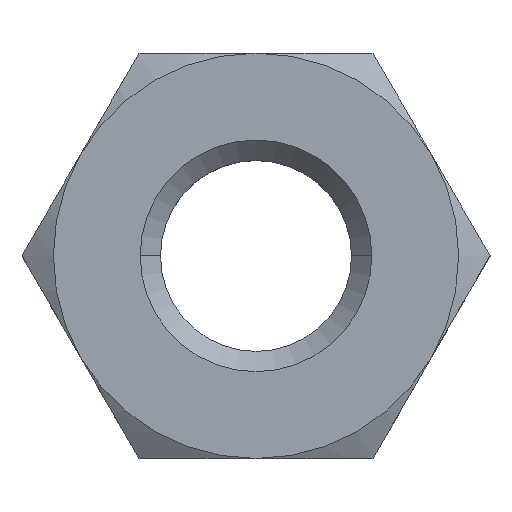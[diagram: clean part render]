
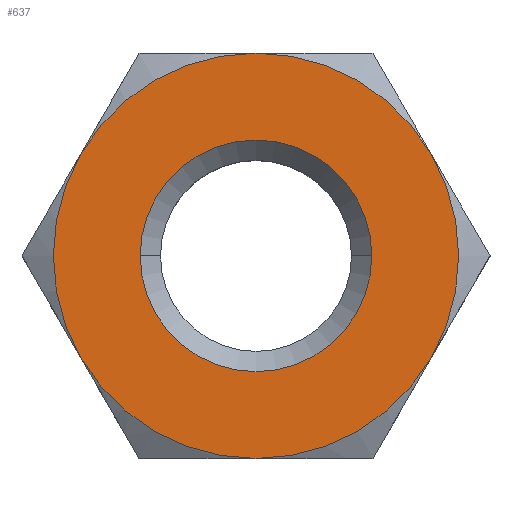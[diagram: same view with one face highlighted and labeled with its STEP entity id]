
A CAD part, top view. The second image highlights one B-rep face of the part: STEP entity #637.
In plain terms, the highlighted planar face has unit normal (0, 0, 1).
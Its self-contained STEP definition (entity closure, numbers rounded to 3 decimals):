
#209=CARTESIAN_POINT('',(0.,0.,3.2));
#210=DIRECTION('',(0.,0.,-1.));
#211=DIRECTION('',(0.,-1.,0.));
#212=AXIS2_PLACEMENT_3D('',#209,#210,#211);
#214=CARTESIAN_POINT('',(0.,0.,3.2));
#215=DIRECTION('',(0.,0.,-1.));
#216=DIRECTION('',(-0.866,-0.5,0.));
#217=AXIS2_PLACEMENT_3D('',#214,#215,#216);
#219=CARTESIAN_POINT('',(0.,0.,3.2));
#220=DIRECTION('',(0.,0.,-1.));
#221=DIRECTION('',(-0.866,0.5,0.));
#222=AXIS2_PLACEMENT_3D('',#219,#220,#221);
#224=CARTESIAN_POINT('',(0.,0.,3.2));
#225=DIRECTION('',(0.,0.,-1.));
#226=DIRECTION('',(0.,1.,0.));
#227=AXIS2_PLACEMENT_3D('',#224,#225,#226);
#229=CARTESIAN_POINT('',(0.,0.,3.2));
#230=DIRECTION('',(0.,0.,-1.));
#231=DIRECTION('',(0.866,0.5,0.));
#232=AXIS2_PLACEMENT_3D('',#229,#230,#231);
#234=CARTESIAN_POINT('',(0.,0.,3.2));
#235=DIRECTION('',(0.,0.,-1.));
#236=DIRECTION('',(0.866,-0.5,0.));
#237=AXIS2_PLACEMENT_3D('',#234,#235,#236);
#239=CARTESIAN_POINT('',(0.,0.,3.2));
#240=DIRECTION('',(0.,0.,1.));
#241=DIRECTION('',(1.,0.,0.));
#242=AXIS2_PLACEMENT_3D('',#239,#240,#241);
#244=CARTESIAN_POINT('',(0.,0.,3.2));
#245=DIRECTION('',(0.,0.,1.));
#246=DIRECTION('',(-1.,0.,0.));
#247=AXIS2_PLACEMENT_3D('',#244,#245,#246);
#313=CARTESIAN_POINT('',(0.,-3.5,3.2));
#314=CARTESIAN_POINT('',(-3.031,-1.75,3.2));
#315=VERTEX_POINT('',#313);
#316=VERTEX_POINT('',#314);
#317=CARTESIAN_POINT('',(-3.031,1.75,3.2));
#318=VERTEX_POINT('',#317);
#319=CARTESIAN_POINT('',(0.,3.5,3.2));
#320=VERTEX_POINT('',#319);
#321=CARTESIAN_POINT('',(3.031,1.75,3.2));
#322=VERTEX_POINT('',#321);
#323=CARTESIAN_POINT('',(3.031,-1.75,3.2));
#324=VERTEX_POINT('',#323);
#353=CARTESIAN_POINT('',(2.,0.,3.2));
#354=CARTESIAN_POINT('',(-2.,0.,3.2));
#355=VERTEX_POINT('',#353);
#356=VERTEX_POINT('',#354);
#615=CARTESIAN_POINT('',(0.,0.,3.2));
#616=DIRECTION('',(0.,0.,1.));
#617=DIRECTION('',(1.,0.,0.));
#618=AXIS2_PLACEMENT_3D('',#615,#616,#617);
#619=PLANE('',#618);
#620=ORIENTED_EDGE('',*,*,#584,.T.);
#621=ORIENTED_EDGE('',*,*,#596,.T.);
#622=ORIENTED_EDGE('',*,*,#608,.T.);
#624=ORIENTED_EDGE('',*,*,#623,.T.);
#626=ORIENTED_EDGE('',*,*,#625,.T.);
#628=ORIENTED_EDGE('',*,*,#627,.T.);
#629=EDGE_LOOP('',(#620,#621,#622,#624,#626,#628));
#630=FACE_OUTER_BOUND('',#629,.F.);
#632=ORIENTED_EDGE('',*,*,#631,.T.);
#634=ORIENTED_EDGE('',*,*,#633,.T.);
#635=EDGE_LOOP('',(#632,#634));
#636=FACE_BOUND('',#635,.F.);
#637=ADVANCED_FACE('',(#630,#636),#619,.T.);
#213=CIRCLE('',#212,3.5);
#218=CIRCLE('',#217,3.5);
#223=CIRCLE('',#222,3.5);
#228=CIRCLE('',#227,3.5);
#233=CIRCLE('',#232,3.5);
#238=CIRCLE('',#237,3.5);
#243=CIRCLE('',#242,2.);
#248=CIRCLE('',#247,2.);
#584=EDGE_CURVE('',#315,#316,#213,.T.);
#596=EDGE_CURVE('',#316,#318,#218,.T.);
#608=EDGE_CURVE('',#318,#320,#223,.T.);
#623=EDGE_CURVE('',#320,#322,#228,.T.);
#625=EDGE_CURVE('',#322,#324,#233,.T.);
#627=EDGE_CURVE('',#324,#315,#238,.T.);
#631=EDGE_CURVE('',#355,#356,#243,.T.);
#633=EDGE_CURVE('',#356,#355,#248,.T.);
